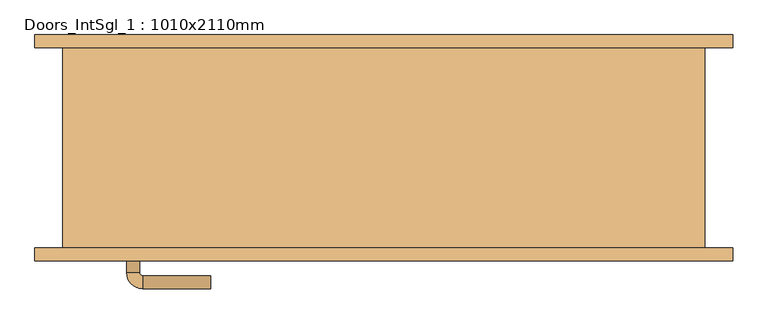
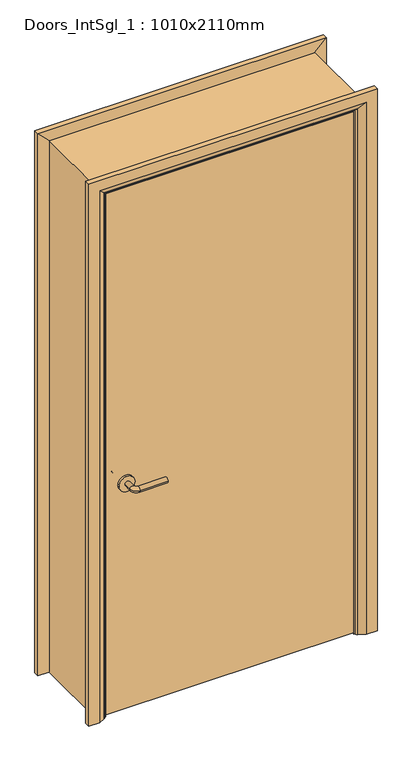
"""IFC4 building model written with IfcOpenShell, lengths in millimetres: door geometry, Doors_IntSgl_1 : 1010x2110mm."""

from ifc_helpers import new_model, si_unit, point, frame, frame_2d, origin, place, context, project, spatial, polyline, circle_curve, ellipse_curve, trimmed, segment, composite_curve, outline, extrude, faceted_brep, source, transform, mapped, element, save
from ifc_brep_helpers import plane_surface, cylinder_surface, revolved_surface, advanced_brep


def doors_intsgl_1_1010x2110mm_5eebe40c(model_context):
    return source(origin(), model_context, "Body", "SolidModel", [
        advanced_brep(
        [(-398.0, -109.0, 900.0), (-378.0, -109.0, 900.0), (-398.0, -79.0, 900.0), (-378.0, -79.0, 900.0), (-373.0, -74.0, 900.0), (-373.0, -54.0, 900.0), (-268.0, -54.0, 900.0), (-268.0, -74.0, 900.0)],
        [
            (0, 1, circle_curve(frame((-388.0, -109.0, 900.0), z_axis=(0.0, -1.0, 0.0), x_axis=(1.0, 0.0, 0.0)), 10.0)),
            (1, 0, circle_curve(frame((-388.0, -109.0, 900.0), z_axis=(0.0, -1.0, 0.0), x_axis=(1.0, 0.0, 0.0)), 10.0)),
            (0, 2),
            (2, 3, circle_curve(frame((-388.0, -79.0, 900.0), z_axis=(0.0, -1.0, 0.0), x_axis=(1.0, 0.0, 0.0)), 10.0)),
            (3, 1),
            (3, 2, circle_curve(frame((-388.0, -79.0, 900.0), z_axis=(0.0, -1.0, 0.0), x_axis=(1.0, 0.0, 0.0)), 10.0)),
            (4, 3, circle_curve(frame((-373.0, -79.0, 900.0), z_axis=(0.0, 0.0, 1.0), x_axis=(-1.0, 0.0, 0.0)), 5.0)),
            (2, 5, circle_curve(frame((-373.0, -79.0, 900.0), z_axis=(0.0, 0.0, -1.0), x_axis=(-1.0, 0.0, 0.0)), 25.0)),
            (5, 4, circle_curve(frame((-373.0, -64.0, 900.0), z_axis=(-1.0, 0.0, 0.0), x_axis=(0.0, -1.0, 0.0)), 10.0)),
            (4, 5, circle_curve(frame((-373.0, -64.0, 900.0), z_axis=(-1.0, 0.0, 0.0), x_axis=(0.0, -1.0, 0.0)), 10.0)),
            (6, 7, circle_curve(frame((-268.0, -64.0, 900.0), z_axis=(1.0, 0.0, 0.0), x_axis=(0.0, -1.0, 0.0)), 10.0)),
            (7, 6, circle_curve(frame((-268.0, -64.0, 900.0), z_axis=(1.0, 0.0, 0.0), x_axis=(0.0, -1.0, 0.0)), 10.0)),
            (5, 6),
            (7, 4),
        ],
        [
            plane_surface(frame((-388.0, -109.0, 900.0), z_axis=(0.0, -1.0, 0.0), x_axis=(0.0, 0.0, 1.0))),
            cylinder_surface(frame((-388.0, -109.0, 900.0), z_axis=(0.0, -1.0, 0.0), x_axis=(1.0, 0.0, 0.0)), 10.0),
            revolved_surface(trimmed(ellipse_curve(frame((-388.0, -79.0, 900.0), z_axis=(0.0, -1.0, 0.0), x_axis=(1.0, 0.0, 0.0)), 10.0, 10.0), [point((-398.0, -79.0, 900.0))], [point((-378.0, -79.0, 900.0))], True, "CARTESIAN"), (-373.0, -79.0, 900.0), (0.0, 0.0, -1.0)),
            revolved_surface(trimmed(ellipse_curve(frame((-388.0, -79.0, 900.0), z_axis=(0.0, -1.0, 0.0), x_axis=(1.0, 0.0, 0.0)), 10.0, 10.0), [point((-378.0, -79.0, 900.0))], [point((-398.0, -79.0, 900.0))], True, "CARTESIAN"), (-373.0, -79.0, 900.0), (0.0, 0.0, -1.0)),
            plane_surface(frame((-268.0, -64.0, 900.0), z_axis=(1.0, 0.0, 0.0), x_axis=(0.0, 0.0, 1.0))),
            cylinder_surface(frame((-373.0, -64.0, 900.0), z_axis=(-1.0, 0.0, 0.0), x_axis=(0.0, -1.0, 0.0)), 10.0),
        ],
        [
            (0, [[1, 2]]),
            (1, [[-1, 3, 4, 5]]),
            (1, [[-2, -5, 6, -3]]),
            (2, [[7, -4, 8, 9]]),
            (3, [[-8, -6, -7, 10]]),
            (4, [[11, 12]]),
            (5, [[-9, 13, -12, 14]]),
            (5, [[-10, -14, -11, -13]]),
        ],
    ),
        extrude(outline(composite_curve([segment(trimmed(circle_curve(frame_2d((900.0, -390.5)), 30.0), [point((900.0, -420.5))], [point((900.0, -360.5))], False, "CARTESIAN"), True, "CONTINUOUS"), segment(trimmed(circle_curve(frame_2d((900.0, -390.5)), 30.0), [point((900.0, -360.5))], [point((900.0, -420.5))], False, "CARTESIAN"), True, "CONTINUOUS")], self_intersect=False)), frame((0.0, -117.0, 0.0), z_axis=(0.0, 1.0, 0.0), x_axis=(0.0, 0.0, 1.0)), (0.0, 0.0, 1.0), 8.0),
        advanced_brep(
        [(-398.0, -163.0, 900.0), (-378.0, -163.0, 900.0), (-378.0, -193.0, 900.0), (-398.0, -193.0, 900.0), (-373.0, -198.0, 900.0), (-373.0, -218.0, 900.0), (-268.0, -218.0, 900.0), (-268.0, -198.0, 900.0)],
        [
            (0, 1, circle_curve(frame((-388.0, -163.0, 900.0), z_axis=(0.0, 1.0, 0.0), x_axis=(1.0, 0.0, 0.0)), 10.0)),
            (1, 0, circle_curve(frame((-388.0, -163.0, 900.0), z_axis=(0.0, 1.0, 0.0), x_axis=(1.0, 0.0, 0.0)), 10.0)),
            (1, 2),
            (2, 3, circle_curve(frame((-388.0, -193.0, 900.0), z_axis=(0.0, 1.0, 0.0), x_axis=(1.0, 0.0, 0.0)), 10.0)),
            (3, 0),
            (3, 2, circle_curve(frame((-388.0, -193.0, 900.0), z_axis=(0.0, 1.0, 0.0), x_axis=(1.0, 0.0, 0.0)), 10.0)),
            (4, 5, circle_curve(frame((-373.0, -208.0, 900.0), z_axis=(-1.0, 0.0, 0.0), x_axis=(0.0, 1.0, 0.0)), 10.0)),
            (5, 3, circle_curve(frame((-373.0, -193.0, 900.0), z_axis=(0.0, 0.0, -1.0), x_axis=(-1.0, 0.0, 0.0)), 25.0)),
            (2, 4, circle_curve(frame((-373.0, -193.0, 900.0), z_axis=(0.0, 0.0, 1.0), x_axis=(-1.0, 0.0, 0.0)), 5.0)),
            (5, 4, circle_curve(frame((-373.0, -208.0, 900.0), z_axis=(-1.0, 0.0, 0.0), x_axis=(0.0, 1.0, 0.0)), 10.0)),
            (6, 7, circle_curve(frame((-268.0, -208.0, 900.0), z_axis=(1.0, 0.0, 0.0), x_axis=(0.0, 1.0, 0.0)), 10.0)),
            (7, 6, circle_curve(frame((-268.0, -208.0, 900.0), z_axis=(1.0, 0.0, 0.0), x_axis=(0.0, 1.0, 0.0)), 10.0)),
            (4, 7),
            (6, 5),
        ],
        [
            plane_surface(frame((-388.0, -163.0, 900.0), z_axis=(0.0, 1.0, 0.0), x_axis=(0.0, 0.0, 1.0))),
            cylinder_surface(frame((-388.0, -163.0, 900.0), z_axis=(0.0, 1.0, 0.0), x_axis=(1.0, 0.0, 0.0)), 10.0),
            revolved_surface(trimmed(ellipse_curve(frame((-388.0, -193.0, 900.0), z_axis=(0.0, -1.0, 0.0), x_axis=(1.0, 0.0, 0.0)), 10.0, 10.0), [point((-398.0, -193.0, 900.0))], [point((-378.0, -193.0, 900.0))], True, "CARTESIAN"), (-373.0, -193.0, 900.0), (0.0, 0.0, -1.0)),
            revolved_surface(trimmed(ellipse_curve(frame((-388.0, -193.0, 900.0), z_axis=(0.0, -1.0, 0.0), x_axis=(1.0, 0.0, 0.0)), 10.0, 10.0), [point((-378.0, -193.0, 900.0))], [point((-398.0, -193.0, 900.0))], True, "CARTESIAN"), (-373.0, -193.0, 900.0), (0.0, 0.0, -1.0)),
            plane_surface(frame((-268.0, -208.0, 900.0), z_axis=(1.0, 0.0, 0.0), x_axis=(0.0, 0.0, 1.0))),
            cylinder_surface(frame((-373.0, -208.0, 900.0), z_axis=(-1.0, 0.0, 0.0), x_axis=(0.0, 1.0, 0.0)), 10.0),
        ],
        [
            (0, [[1, 2]]),
            (1, [[3, 4, 5, -2]]),
            (1, [[-5, 6, -3, -1]]),
            (2, [[7, 8, -4, 9]]),
            (3, [[10, -9, -6, -8]]),
            (4, [[11, 12]]),
            (5, [[13, -11, 14, -7]]),
            (5, [[-14, -12, -13, -10]]),
        ],
    ),
        extrude(outline(composite_curve([segment(trimmed(circle_curve(frame_2d((900.0, -390.5)), 30.0), [point((900.0, -420.5))], [point((900.0, -360.5))], False, "CARTESIAN"), True, "CONTINUOUS"), segment(trimmed(circle_curve(frame_2d((900.0, -390.5)), 30.0), [point((900.0, -360.5))], [point((900.0, -420.5))], False, "CARTESIAN"), True, "CONTINUOUS")], self_intersect=False)), frame((0.0, -163.0, 0.0), z_axis=(0.0, 1.0, 0.0), x_axis=(0.0, 0.0, 1.0)), (0.0, 0.0, 1.0), 8.0),
        extrude(outline(polyline([(463.0, -117.0), (463.0, -155.0), (-463.0, -155.0), (-463.0, -117.0), (463.0, -117.0)])), frame((0.0, 0.0, 8.0), z_axis=(0.0, 0.0, 1.0), x_axis=(1.0, 0.0, 0.0)), (0.0, 0.0, 1.0), 2060.0),
        advanced_brep(
        [(540.0, -175.0, 0.0), (500.0, -175.0, 0.0), (474.0, -161.0, 0.0), (470.0, -155.0, 0.0), (540.0, -155.0, 0.0), (540.0, -155.0, 2145.0), (540.0, -175.0, 2145.0), (470.0, -155.0, 2075.0), (-470.0, -155.0, 2075.0), (-470.0, -155.0, 0.0), (-540.0, -155.0, 0.0), (-540.0, -155.0, 2145.0), (474.0, -161.0, 2079.0), (500.0, -175.0, 2105.0), (-540.0, -175.0, 2145.0), (-540.0, -175.0, 0.0), (-500.0, -175.0, 0.0), (-500.0, -175.0, 2105.0), (-474.0, -161.0, 0.0), (-474.0, -161.0, 2079.0)],
        [
            (0, 1),
            (1, 2),
            (2, 3, circle_curve(frame((478.0, -154.0, 0.0), z_axis=(0.0, 0.0, -1.0), x_axis=(1.0, 0.0, 0.0)), 8.0622577)),
            (3, 4),
            (4, 0),
            (4, 5),
            (5, 6),
            (6, 0),
            (3, 7),
            (7, 8),
            (8, 9),
            (9, 10),
            (10, 11),
            (11, 5),
            (2, 12),
            (12, 7, ellipse_curve(frame((478.0, -154.0, 2083.0), z_axis=(0.7071067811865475, 0.0, -0.7071067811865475), x_axis=(-0.7071067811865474, 0.0, -0.7071067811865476)), 11.4017543, 8.0622577)),
            (1, 13),
            (13, 12),
            (6, 14),
            (14, 15),
            (15, 16),
            (16, 17),
            (17, 13),
            (10, 15),
            (14, 11),
            (9, 18, circle_curve(frame((-478.0, -154.0, 0.0), z_axis=(0.0, 0.0, -1.0), x_axis=(-1.0, 0.0, 0.0)), 8.0622577)),
            (18, 16),
            (19, 18),
            (8, 19, ellipse_curve(frame((-478.0, -154.0, 2083.0), z_axis=(-0.7071067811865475, 0.0, -0.7071067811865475), x_axis=(-0.7071067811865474, 0.0, 0.7071067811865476)), 11.4017543, 8.0622577)),
            (19, 17),
            (12, 19),
        ],
        [
            plane_surface(frame((470.0, -155.0, 0.0), z_axis=(0.0, 0.0, -1.0), x_axis=(0.0, 1.0, 0.0))),
            plane_surface(frame((540.0, -175.0, 0.0), z_axis=(1.0, 0.0, 0.0), x_axis=(0.0, 0.0, 1.0))),
            plane_surface(frame((540.0, -155.0, 0.0), z_axis=(0.0, 1.0, 0.0), x_axis=(0.0, 0.0, 1.0))),
            cylinder_surface(frame((478.0, -154.0, 0.0), z_axis=(0.0, 0.0, -1.0), x_axis=(1.0, 0.0, 0.0)), 8.0622577),
            plane_surface(frame((474.0, -161.0, 0.0), z_axis=(-0.4740998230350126, -0.880471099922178, 0.0), x_axis=(0.0, 0.0, 1.0))),
            plane_surface(frame((500.0, -175.0, 0.0), z_axis=(0.0, -1.0, 0.0), x_axis=(0.0, 0.0, 1.0))),
            plane_surface(frame((-540.0, -175.0, 2145.0), z_axis=(-1.0, 0.0, 0.0), x_axis=(0.0, 0.0, -1.0))),
            plane_surface(frame((-470.0, -155.0, 0.0), z_axis=(0.0, 0.0, -1.0), x_axis=(0.0, 1.0, 0.0))),
            cylinder_surface(frame((-478.0, -154.0, 2075.0), z_axis=(0.0, 0.0, 1.0), x_axis=(-1.0, 0.0, 0.0)), 8.0622577),
            plane_surface(frame((-474.0, -161.0, 2079.0), z_axis=(0.47409982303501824, -0.8804710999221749, 0.0), x_axis=(0.0, 0.0, -1.0))),
            plane_surface(frame((540.0, -175.0, 2145.0), z_axis=(0.0, 0.0, 1.0), x_axis=(-1.0, 0.0, 0.0))),
            cylinder_surface(frame((470.0, -154.0, 2083.0), z_axis=(1.0, 0.0, 0.0), x_axis=(0.0, 0.0, 1.0)), 8.0622577),
            plane_surface(frame((474.0, -161.0, 2079.0), z_axis=(0.0, -0.8804710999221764, -0.4740998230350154), x_axis=(-1.0, 0.0, 0.0))),
        ],
        [
            (0, [[1, 2, 3, 4, 5]]),
            (1, [[6, 7, 8, -5]]),
            (2, [[9, 10, 11, 12, 13, 14, -6, -4]]),
            (3, [[15, 16, -9, -3]]),
            (4, [[17, 18, -15, -2]]),
            (5, [[-8, 19, 20, 21, 22, 23, -17, -1]]),
            (6, [[-13, 24, -20, 25]]),
            (7, [[-24, -12, 26, 27, -21]]),
            (8, [[28, -26, -11, 29]]),
            (9, [[-22, -27, -28, 30]]),
            (10, [[-14, -25, -19, -7]]),
            (11, [[31, -29, -10, -16]]),
            (12, [[-23, -30, -31, -18]]),
        ],
    ),
        extrude(outline(polyline([(0.0, -446.0), (2051.0, -446.0), (2051.0, 446.0), (0.0, 446.0), (0.0, 465.0), (2070.0, 465.0), (2070.0, -465.0), (0.0, -465.0), (0.0, -446.0)])), frame((0.0, -115.0, 0.0), z_axis=(0.0, 1.0, 0.0), x_axis=(0.0, 0.0, 1.0)), (0.0, 0.0, 1.0), 32.0),
        advanced_brep(
        [(-540.0, 175.0, 0.0), (-500.0, 175.0, 0.0), (-474.0, 161.0, 0.0), (-470.0, 155.0, 0.0), (-540.0, 155.0, 0.0), (-540.0, 155.0, 2145.0), (-540.0, 175.0, 2145.0), (-470.0, 155.0, 2075.0), (-474.0, 161.0, 2079.0), (-500.0, 175.0, 2105.0), (540.0, 175.0, 0.0), (540.0, 155.0, 0.0), (470.0, 155.0, 0.0), (474.0, 161.0, 0.0), (500.0, 175.0, 0.0), (540.0, 175.0, 2145.0), (500.0, 175.0, 2105.0), (474.0, 161.0, 2079.0), (470.0, 155.0, 2075.0), (540.0, 155.0, 2145.0)],
        [
            (0, 1),
            (1, 2),
            (2, 3, circle_curve(frame((-478.0, 154.0, 0.0), z_axis=(0.0, 0.0, -1.0), x_axis=(-1.0, 0.0, 0.0)), 8.0622577)),
            (3, 4),
            (4, 0),
            (4, 5),
            (5, 6),
            (6, 0),
            (3, 7),
            (7, 5),
            (2, 8),
            (8, 7, ellipse_curve(frame((-478.0, 154.0, 2083.0), z_axis=(-0.7071067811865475, 0.0, -0.7071067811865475), x_axis=(0.7071067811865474, 0.0, -0.7071067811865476)), 11.4017543, 8.0622577)),
            (1, 9),
            (9, 8),
            (6, 9),
            (10, 11),
            (11, 12),
            (12, 13, circle_curve(frame((478.0, 154.0, 0.0), z_axis=(0.0, 0.0, -1.0), x_axis=(1.0, 0.0, 0.0)), 8.0622577)),
            (13, 14),
            (14, 10),
            (15, 10),
            (14, 16),
            (16, 15),
            (13, 17),
            (17, 16),
            (12, 18),
            (18, 17, ellipse_curve(frame((478.0, 154.0, 2083.0), z_axis=(0.7071067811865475, 0.0, -0.7071067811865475), x_axis=(0.7071067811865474, 0.0, 0.7071067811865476)), 11.4017543, 8.0622577)),
            (11, 19),
            (19, 18),
            (15, 19),
            (5, 19),
            (15, 6),
            (7, 18),
            (8, 17),
            (9, 16),
        ],
        [
            plane_surface(frame((-470.0, 227.8010989, 0.0), z_axis=(0.0, 0.0, -1.0), x_axis=(1.0, 0.0, 0.0))),
            plane_surface(frame((-540.0, 175.0, 0.0), z_axis=(-1.0, 0.0, 0.0), x_axis=(0.0, 0.0, 1.0))),
            plane_surface(frame((-540.0, 155.0, 0.0), z_axis=(0.0, -1.0, 0.0), x_axis=(0.0, 0.0, 1.0))),
            cylinder_surface(frame((-478.0, 154.0, 0.0), z_axis=(0.0, 0.0, -1.0), x_axis=(-1.0, 0.0, 0.0)), 8.0622577),
            plane_surface(frame((-474.0, 161.0, 0.0), z_axis=(0.4740998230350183, 0.8804710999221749, 0.0), x_axis=(0.0, 0.0, 1.0))),
            plane_surface(frame((-500.0, 175.0, 0.0), z_axis=(0.0, 1.0, 0.0), x_axis=(0.0, 0.0, 1.0))),
            plane_surface(frame((470.0, 227.8010989, 0.0), z_axis=(0.0, 0.0, -1.0), x_axis=(-1.0, 0.0, 0.0))),
            plane_surface(frame((500.0, 175.0, 2105.0), z_axis=(0.0, 1.0, 0.0), x_axis=(0.0, 0.0, -1.0))),
            plane_surface(frame((474.0, 161.0, 2079.0), z_axis=(-0.4740998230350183, 0.8804710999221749, 0.0), x_axis=(0.0, 0.0, -1.0))),
            cylinder_surface(frame((478.0, 154.0, 2075.0), z_axis=(0.0, 0.0, 1.0), x_axis=(1.0, 0.0, 0.0)), 8.0622577),
            plane_surface(frame((540.0, 155.0, 2145.0), z_axis=(0.0, -1.0, 0.0), x_axis=(0.0, 0.0, -1.0))),
            plane_surface(frame((540.0, 175.0, 2145.0), z_axis=(1.0, 0.0, 0.0), x_axis=(0.0, 0.0, -1.0))),
            plane_surface(frame((-540.0, 175.0, 2145.0), z_axis=(0.0, 0.0, 1.0), x_axis=(1.0, 0.0, 0.0))),
            plane_surface(frame((-540.0, 155.0, 2145.0), z_axis=(0.0, -1.0, 0.0), x_axis=(1.0, 0.0, 0.0))),
            cylinder_surface(frame((-470.0, 154.0, 2083.0), z_axis=(-1.0, 0.0, 0.0), x_axis=(0.0, 0.0, 1.0)), 8.0622577),
            plane_surface(frame((-474.0, 161.0, 2079.0), z_axis=(0.0, 0.8804710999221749, -0.4740998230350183), x_axis=(1.0, 0.0, 0.0))),
            plane_surface(frame((-500.0, 175.0, 2105.0), z_axis=(0.0, 1.0, 0.0), x_axis=(1.0, 0.0, 0.0))),
        ],
        [
            (0, [[1, 2, 3, 4, 5]]),
            (1, [[6, 7, 8, -5]]),
            (2, [[9, 10, -6, -4]]),
            (3, [[11, 12, -9, -3]]),
            (4, [[13, 14, -11, -2]]),
            (5, [[-8, 15, -13, -1]]),
            (6, [[16, 17, 18, 19, 20]]),
            (7, [[21, -20, 22, 23]]),
            (8, [[-22, -19, 24, 25]]),
            (9, [[-24, -18, 26, 27]]),
            (10, [[-26, -17, 28, 29]]),
            (11, [[-28, -16, -21, 30]]),
            (12, [[31, -30, 32, -7]]),
            (13, [[33, -29, -31, -10]]),
            (14, [[34, -27, -33, -12]]),
            (15, [[35, -25, -34, -14]]),
            (16, [[-32, -23, -35, -15]]),
        ],
    ),
        faceted_brep([(-465.0, -155.0, 0.0), (-497.0, -155.0, 0.0), (-497.0, 155.0, 0.0), (-465.0, 155.0, 0.0), (-465.0, 155.0, 2070.0), (-465.0, -155.0, 2070.0), (-497.0, 155.0, 2102.0), (-497.0, -155.0, 2102.0), (465.0, -155.0, 0.0), (465.0, 155.0, 0.0), (497.0, 155.0, 0.0), (497.0, -155.0, 0.0), (465.0, -155.0, 2070.0), (497.0, -155.0, 2102.0), (497.0, 155.0, 2102.0), (465.0, 155.0, 2070.0)], [[[0, 1, 2, 3]], [[3, 4, 5, 0]], [[2, 6, 4, 3]], [[1, 7, 6, 2]], [[0, 5, 7, 1]], [[8, 9, 10, 11]], [[12, 8, 11, 13]], [[13, 11, 10, 14]], [[14, 10, 9, 15]], [[15, 9, 8, 12]], [[4, 15, 12, 5]], [[6, 14, 15, 4]], [[7, 13, 14, 6]], [[5, 12, 13, 7]]]),
    ])


if __name__ == "__main__":
    model = new_model("IFC4")
    model_context = context("Model", 3, world=origin())
    ifc_project = project(units=[si_unit("LENGTHUNIT", "METRE", prefix="MILLI")], contexts=[model_context])
    site = spatial("IfcSite", under=ifc_project)
    building = spatial("IfcBuilding", under=site)
    placement = place(None, origin())
    doors_intsgl_1_1010x2110mm_shape = doors_intsgl_1_1010x2110mm_5eebe40c(model_context)
    element("IfcDoor", 1, ObjectType="Doors_IntSgl_1 : 1010x2110mm", at=placement, inside=building, context=model_context, shape_type="MappedRepresentation", body=[
        mapped(doors_intsgl_1_1010x2110mm_shape, transform((0.0, 0.0, 0.0), x_axis=(1.0, 0.0, 0.0), y_axis=(0.0, 1.0, 0.0), z_axis=(0.0, 0.0, 1.0))),
    ])
    save(model, "model.ifc")
